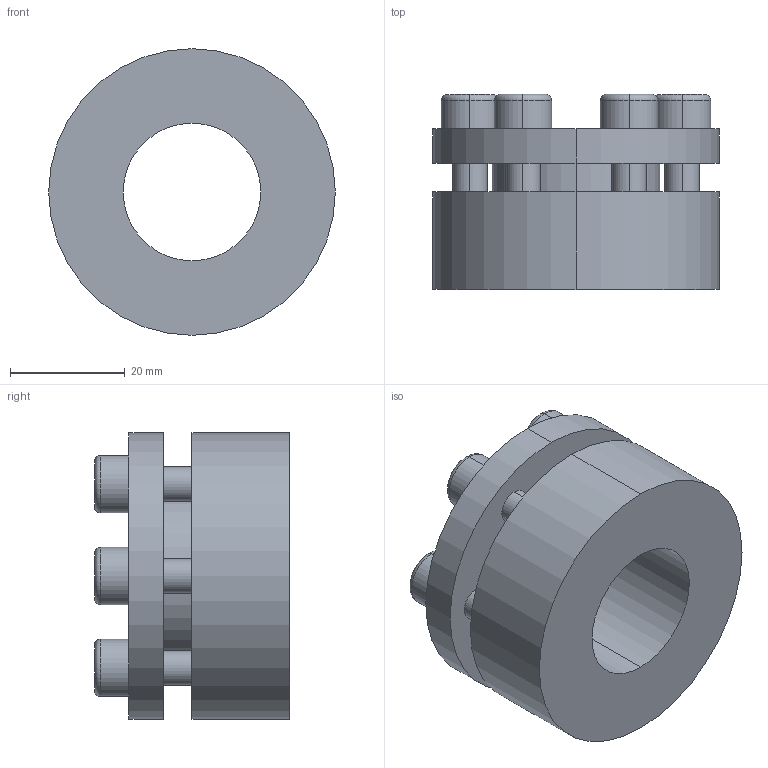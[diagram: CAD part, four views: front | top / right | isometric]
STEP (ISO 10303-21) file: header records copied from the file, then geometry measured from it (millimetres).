
FILE_DESCRIPTION (( 'STEP AP203' ), '1' );
FILE_NAME ('PL-H3 24-50.STEP', '2021-10-23T01:06:25', ( '' ), ( '' ), 'SwSTEP 2.0', 'SolidWorks 2018', '' );
FILE_SCHEMA (( 'CONFIG_CONTROL_DESIGN' ));
Length unit declared in the file: millimetre
Products named in the file (1): PL-H3 24-50
Bounding box: 50 x 34 x 50 mm (x, y, z)
Volume: 39089.1 mm3; surface area: 13377.9 mm2
Topology: 1 solids, 1 shells, 96 faces, 228 edges, 148 vertices
Faces by surface type: plane 52, cylinder 32, torus 12
Entity records: 2889 total; most frequent: DIRECTION 510, CARTESIAN_POINT 473, ORIENTED_EDGE 456, EDGE_CURVE 228, AXIS2_PLACEMENT_3D 185, VERTEX_POINT 148, VECTOR 140, LINE 140
